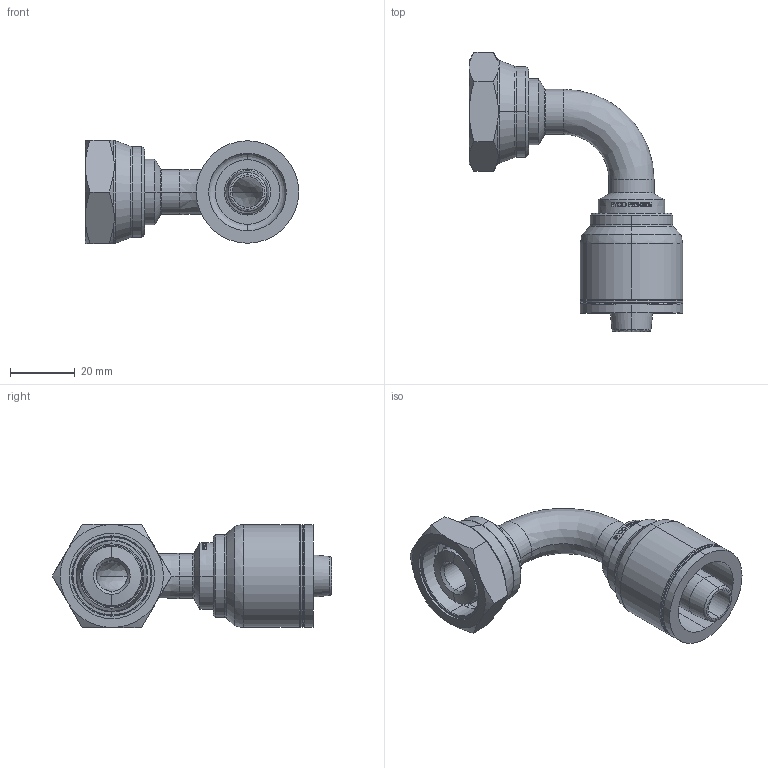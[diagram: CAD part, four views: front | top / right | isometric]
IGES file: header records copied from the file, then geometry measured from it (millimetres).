
Start section: SolidWorks IGES file using analytic representation for surfaces
Global section: file name: X:\SolidWorks\Solidworks models-to be checked\Customer Part Models\T252-0826.IGS; native system: SolidWorks 2010; preprocessor: SolidWorks 2010; author: MKitchenham; date: 120327.093430; units: millimetre
Bounding box: 65.73 x 86.03 x 31.75 mm (x, y, z)
Volume: 28281.4 mm3; surface area: 18842 mm2
Topology: 3 solids, 3 shells, 304 faces, 726 edges, 452 vertices
Faces by surface type: revolution 147, bspline 103, plane 54
